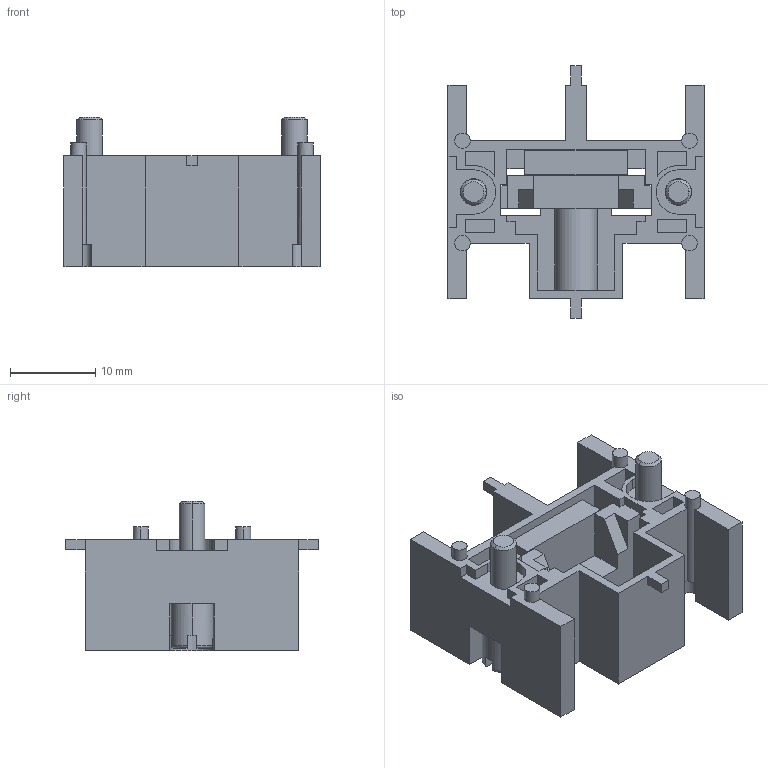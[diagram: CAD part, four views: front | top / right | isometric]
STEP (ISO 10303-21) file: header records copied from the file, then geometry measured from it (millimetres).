
FILE_DESCRIPTION (( 'STEP AP214' ), '1' );
FILE_NAME ('3D 斁麧錪 MTB2-F02.STEP', '2017-03-11T10:38:02', ( '' ), ( '' ), 'SwSTEP 2.0', 'SolidWorks 2013', '' );
FILE_SCHEMA (( 'AUTOMOTIVE_DESIGN' ));
Length unit declared in the file: millimetre
Products named in the file (1): 3D 斁麧錪 MTB2-F02
Bounding box: 30 x 29.6 x 17.5 mm (x, y, z)
Volume: 4484.8 mm3; surface area: 6012.5 mm2
Topology: 1 solids, 1 shells, 249 faces, 703 edges, 463 vertices
Faces by surface type: plane 188, cylinder 49, torus 8, cone 4
Entity records: 8106 total; most frequent: CARTESIAN_POINT 1496, ORIENTED_EDGE 1406, DIRECTION 1334, EDGE_CURVE 703, VECTOR 540, LINE 540, VERTEX_POINT 463, AXIS2_PLACEMENT_3D 397
